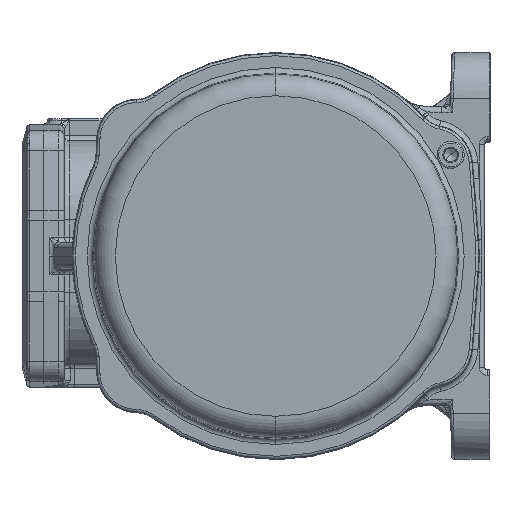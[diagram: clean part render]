
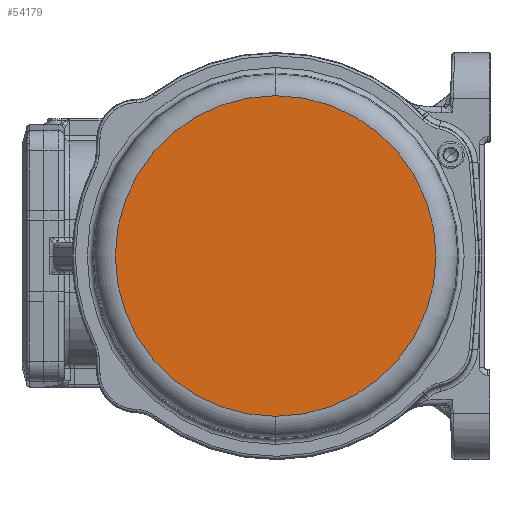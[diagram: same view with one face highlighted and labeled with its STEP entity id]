
A CAD part, left-side view. The second image highlights one B-rep face of the part: STEP entity #54179.
In plain terms, the highlighted planar face has unit normal (-1, 0, 0).
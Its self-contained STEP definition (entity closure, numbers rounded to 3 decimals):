
#552 = EDGE_CURVE ( 'NONE', #3717, #67717, #1361, .T. ) ;
#1361 = CIRCLE ( 'NONE', #67444, 59.097 ) ;
#3717 = VERTEX_POINT ( 'NONE', #23879 ) ;
#4683 = DIRECTION ( 'NONE',  ( -1., 0., 0. ) ) ;
#9433 = EDGE_LOOP ( 'NONE', ( #42556, #58096 ) ) ;
#13799 = AXIS2_PLACEMENT_3D ( 'NONE', #30277, #30545, #73552 ) ;
#23358 = CARTESIAN_POINT ( 'NONE',  ( -127., 0., 0. ) ) ;
#23879 = CARTESIAN_POINT ( 'NONE',  ( -127., 0., -59.097 ) ) ;
#29655 = DIRECTION ( 'NONE',  ( -1., 0., 0. ) ) ;
#30277 = CARTESIAN_POINT ( 'NONE',  ( -127., 0., 0. ) ) ;
#30545 = DIRECTION ( 'NONE',  ( -1., 0., 0. ) ) ;
#37839 = CARTESIAN_POINT ( 'NONE',  ( -127., 0., 59.097 ) ) ;
#42556 = ORIENTED_EDGE ( 'NONE', *, *, #60780, .T. ) ;
#54179 = ADVANCED_FACE ( 'NONE', ( #64887 ), #79428, .T. ) ;
#54258 = DIRECTION ( 'NONE',  ( 0., 0., 1. ) ) ;
#55950 = AXIS2_PLACEMENT_3D ( 'NONE', #66513, #29655, #72672 ) ;
#58096 = ORIENTED_EDGE ( 'NONE', *, *, #552, .T. ) ;
#60780 = EDGE_CURVE ( 'NONE', #67717, #3717, #61460, .T. ) ;
#61460 = CIRCLE ( 'NONE', #55950, 59.097 ) ;
#64887 = FACE_OUTER_BOUND ( 'NONE', #9433, .T. ) ;
#66513 = CARTESIAN_POINT ( 'NONE',  ( -127., 0., 0. ) ) ;
#67444 = AXIS2_PLACEMENT_3D ( 'NONE', #23358, #4683, #54258 ) ;
#67717 = VERTEX_POINT ( 'NONE', #37839 ) ;
#72672 = DIRECTION ( 'NONE',  ( 0., 0., 1. ) ) ;
#73552 = DIRECTION ( 'NONE',  ( 0., 0., 1. ) ) ;
#79428 = PLANE ( 'NONE',  #13799 ) ;
